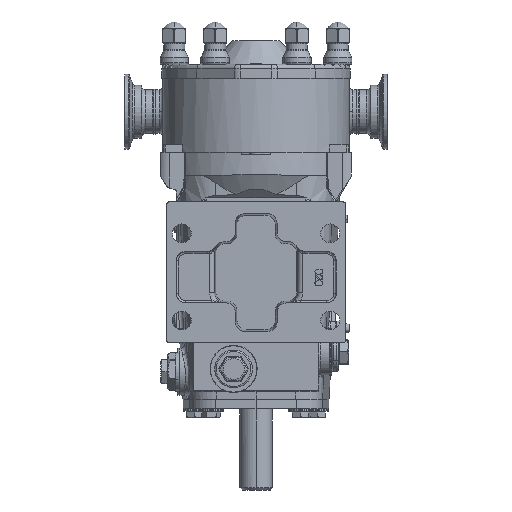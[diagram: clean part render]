
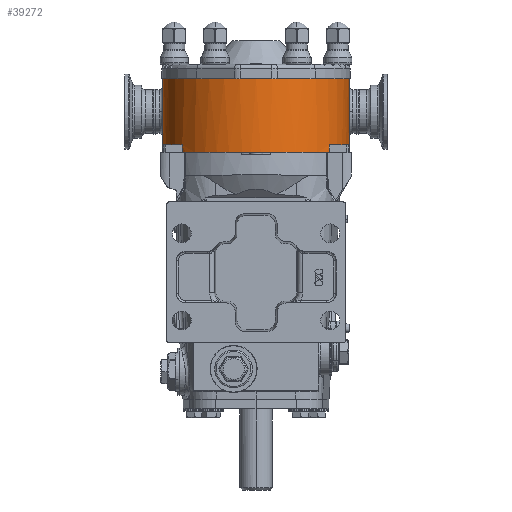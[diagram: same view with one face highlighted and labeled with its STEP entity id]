
A CAD part, front view. The second image highlights one B-rep face of the part: STEP entity #39272.
In plain terms, the highlighted cylindrical face has radius 62.992 mm (diameter 125.984 mm), a partial arc.
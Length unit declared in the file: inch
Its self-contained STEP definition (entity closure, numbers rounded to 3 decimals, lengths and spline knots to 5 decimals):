
#2674 = AXIS2_PLACEMENT_3D ( 'NONE', #50001, #16043, #55718 ) ;
#2813 = ORIENTED_EDGE ( 'NONE', *, *, #39237, .F. ) ;
#3952 = EDGE_CURVE ( 'NONE', #56547, #20359, #10922, .T. ) ;
#4075 = DIRECTION ( 'NONE',  ( 0., 0., 1. ) ) ;
#4383 = VERTEX_POINT ( 'NONE', #50678 ) ;
#4893 = CARTESIAN_POINT ( 'NONE',  ( -2.48, -2.563, 1.83 ) ) ;
#5679 = CARTESIAN_POINT ( 'NONE',  ( 2.48, -2.563, -0.125 ) ) ;
#6480 = CARTESIAN_POINT ( 'NONE',  ( -2.45837, -2.88985, -0.125 ) ) ;
#6926 = VERTEX_POINT ( 'NONE', #60268 ) ;
#7788 = DIRECTION ( 'NONE',  ( 0., 0., -1. ) ) ;
#8351 = DIRECTION ( 'NONE',  ( 0., 0., -1. ) ) ;
#9164 = ORIENTED_EDGE ( 'NONE', *, *, #40550, .T. ) ;
#9425 = CYLINDRICAL_SURFACE ( 'NONE', #68016, 2.48 ) ;
#9702 = CARTESIAN_POINT ( 'NONE',  ( 2.48, -2.563, 1.83 ) ) ;
#9827 = EDGE_CURVE ( 'NONE', #37275, #56595, #50944, .T. ) ;
#10329 = VECTOR ( 'NONE', #40900, 39.37008 ) ;
#10922 = CIRCLE ( 'NONE', #2674, 2.48 ) ;
#11826 = EDGE_CURVE ( 'NONE', #37275, #65487, #65839, .T. ) ;
#11852 = DIRECTION ( 'NONE',  ( 0., 0., 1. ) ) ;
#12422 = CARTESIAN_POINT ( 'NONE',  ( -1.95756, -4.08562, 1.83 ) ) ;
#12493 = ORIENTED_EDGE ( 'NONE', *, *, #38202, .T. ) ;
#12517 = AXIS2_PLACEMENT_3D ( 'NONE', #38024, #4075, #43745 ) ;
#13299 = DIRECTION ( 'NONE',  ( 0., 0., 1. ) ) ;
#13408 = DIRECTION ( 'NONE',  ( 0., 0., -1. ) ) ;
#13504 = DIRECTION ( 'NONE',  ( 0., 0., 1. ) ) ;
#13516 = CARTESIAN_POINT ( 'NONE',  ( 0., -2.563, -0.125 ) ) ;
#13906 = LINE ( 'NONE', #12422, #10329 ) ;
#14518 = EDGE_CURVE ( 'NONE', #4383, #6926, #22982, .T. ) ;
#14674 = VERTEX_POINT ( 'NONE', #5679 ) ;
#15720 = ORIENTED_EDGE ( 'NONE', *, *, #3952, .T. ) ;
#15933 = VERTEX_POINT ( 'NONE', #27512 ) ;
#16043 = DIRECTION ( 'NONE',  ( 0., 0., 1. ) ) ;
#17680 = DIRECTION ( 'NONE',  ( 0., 0., 1. ) ) ;
#19180 = DIRECTION ( 'NONE',  ( 1., 0., 0. ) ) ;
#19303 = ORIENTED_EDGE ( 'NONE', *, *, #9827, .F. ) ;
#20094 = CIRCLE ( 'NONE', #12517, 2.48 ) ;
#20359 = VERTEX_POINT ( 'NONE', #28696 ) ;
#21666 = VECTOR ( 'NONE', #7788, 39.37008 ) ;
#22534 = ORIENTED_EDGE ( 'NONE', *, *, #14518, .T. ) ;
#22744 = ORIENTED_EDGE ( 'NONE', *, *, #39677, .T. ) ;
#22794 = EDGE_CURVE ( 'NONE', #23148, #4383, #13906, .T. ) ;
#22982 = CIRCLE ( 'NONE', #36983, 2.48 ) ;
#23148 = VERTEX_POINT ( 'NONE', #67164 ) ;
#23343 = CIRCLE ( 'NONE', #51535, 2.48 ) ;
#24043 = CARTESIAN_POINT ( 'NONE',  ( -2.45837, -2.88985, 1.83 ) ) ;
#26180 = AXIS2_PLACEMENT_3D ( 'NONE', #47342, #13408, #53057 ) ;
#26242 = CARTESIAN_POINT ( 'NONE',  ( 2.45837, -2.88985, 0.075 ) ) ;
#26885 = AXIS2_PLACEMENT_3D ( 'NONE', #51633, #17680, #57365 ) ;
#26940 = DIRECTION ( 'NONE',  ( 0., 0., 1. ) ) ;
#27499 = VERTEX_POINT ( 'NONE', #72251 ) ;
#27512 = CARTESIAN_POINT ( 'NONE',  ( -0.375, -5.01448, -0.125 ) ) ;
#28040 = CIRCLE ( 'NONE', #26180, 2.48 ) ;
#28696 = CARTESIAN_POINT ( 'NONE',  ( 1.95069, -4.09441, -0.125 ) ) ;
#28766 = VECTOR ( 'NONE', #63755, 39.37008 ) ;
#29696 = VERTEX_POINT ( 'NONE', #6480 ) ;
#31546 = LINE ( 'NONE', #40080, #44833 ) ;
#32233 = EDGE_CURVE ( 'NONE', #56595, #14674, #66962, .T. ) ;
#32957 = CARTESIAN_POINT ( 'NONE',  ( 0., -2.563, -0.125 ) ) ;
#33587 = CARTESIAN_POINT ( 'NONE',  ( 0., -2.563, 0.075 ) ) ;
#34827 = VERTEX_POINT ( 'NONE', #26242 ) ;
#35484 = AXIS2_PLACEMENT_3D ( 'NONE', #60952, #26940, #66655 ) ;
#35615 = VECTOR ( 'NONE', #63917, 39.37008 ) ;
#35925 = AXIS2_PLACEMENT_3D ( 'NONE', #33587, #73324, #39279 ) ;
#36238 = EDGE_CURVE ( 'NONE', #34827, #59018, #38874, .T. ) ;
#36409 = CARTESIAN_POINT ( 'NONE',  ( 0., -2.563, 1.83 ) ) ;
#36592 = CARTESIAN_POINT ( 'NONE',  ( 2.45837, -2.88985, 1.83 ) ) ;
#36983 = AXIS2_PLACEMENT_3D ( 'NONE', #32957, #72691, #38645 ) ;
#37275 = VERTEX_POINT ( 'NONE', #4893 ) ;
#37342 = ORIENTED_EDGE ( 'NONE', *, *, #43594, .T. ) ;
#38024 = CARTESIAN_POINT ( 'NONE',  ( 0., -2.563, -0.125 ) ) ;
#38119 = VERTEX_POINT ( 'NONE', #63476 ) ;
#38202 = EDGE_CURVE ( 'NONE', #34827, #27499, #40544, .T. ) ;
#38645 = DIRECTION ( 'NONE',  ( 1., 0., 0. ) ) ;
#38874 = CIRCLE ( 'NONE', #35925, 2.48 ) ;
#39237 = EDGE_CURVE ( 'NONE', #23148, #38119, #28040, .T. ) ;
#39272 = ADVANCED_FACE ( 'NONE', ( #54664 ), #9425, .T. ) ;
#39279 = DIRECTION ( 'NONE',  ( 1., 0., 0. ) ) ;
#39677 = EDGE_CURVE ( 'NONE', #20359, #59018, #31546, .T. ) ;
#40080 = CARTESIAN_POINT ( 'NONE',  ( 1.95069, -4.09441, 1.83 ) ) ;
#40336 = EDGE_CURVE ( 'NONE', #15933, #49367, #73219, .T. ) ;
#40544 = LINE ( 'NONE', #36592, #67193 ) ;
#40550 = EDGE_CURVE ( 'NONE', #29696, #38119, #57178, .T. ) ;
#40900 = DIRECTION ( 'NONE',  ( 0., 0., -1. ) ) ;
#41749 = CARTESIAN_POINT ( 'NONE',  ( 2.48, -2.563, 1.83 ) ) ;
#42025 = EDGE_LOOP ( 'NONE', ( #2813, #68949, #22534, #37342, #42078, #49632, #15720, #22744, #55849, #12493, #70258, #59905, #19303, #49739, #42220, #9164 ) ) ;
#42078 = ORIENTED_EDGE ( 'NONE', *, *, #40336, .T. ) ;
#42220 = ORIENTED_EDGE ( 'NONE', *, *, #59648, .T. ) ;
#42406 = AXIS2_PLACEMENT_3D ( 'NONE', #47430, #13504, #53138 ) ;
#42573 = EDGE_CURVE ( 'NONE', #27499, #14674, #23343, .T. ) ;
#43594 = EDGE_CURVE ( 'NONE', #6926, #15933, #66683, .T. ) ;
#43745 = DIRECTION ( 'NONE',  ( 1., 0., 0. ) ) ;
#43931 = CARTESIAN_POINT ( 'NONE',  ( -2.48, -2.563, -0.125 ) ) ;
#44833 = VECTOR ( 'NONE', #11852, 39.37008 ) ;
#47224 = CARTESIAN_POINT ( 'NONE',  ( 0., -2.563, -0.125 ) ) ;
#47342 = CARTESIAN_POINT ( 'NONE',  ( 0., -2.563, 0.075 ) ) ;
#47430 = CARTESIAN_POINT ( 'NONE',  ( 0., -2.563, 1.83 ) ) ;
#47579 = DIRECTION ( 'NONE',  ( 0., 0., -1. ) ) ;
#48848 = CARTESIAN_POINT ( 'NONE',  ( 1.875, -4.1862, -0.125 ) ) ;
#49367 = VERTEX_POINT ( 'NONE', #71794 ) ;
#49632 = ORIENTED_EDGE ( 'NONE', *, *, #52351, .T. ) ;
#49739 = ORIENTED_EDGE ( 'NONE', *, *, #11826, .T. ) ;
#50001 = CARTESIAN_POINT ( 'NONE',  ( 0., -2.563, -0.125 ) ) ;
#50678 = CARTESIAN_POINT ( 'NONE',  ( -1.95756, -4.08562, -0.125 ) ) ;
#50902 = AXIS2_PLACEMENT_3D ( 'NONE', #13516, #53141, #19180 ) ;
#50944 = CIRCLE ( 'NONE', #42406, 2.48 ) ;
#51535 = AXIS2_PLACEMENT_3D ( 'NONE', #47224, #13299, #52935 ) ;
#51633 = CARTESIAN_POINT ( 'NONE',  ( 0., -2.563, -0.125 ) ) ;
#52351 = EDGE_CURVE ( 'NONE', #49367, #56547, #53231, .T. ) ;
#52935 = DIRECTION ( 'NONE',  ( 1., 0., 0. ) ) ;
#53057 = DIRECTION ( 'NONE',  ( -1., 0., 0. ) ) ;
#53138 = DIRECTION ( 'NONE',  ( 1., 0., 0. ) ) ;
#53141 = DIRECTION ( 'NONE',  ( 0., 0., 1. ) ) ;
#53231 = CIRCLE ( 'NONE', #35484, 2.48 ) ;
#54664 = FACE_OUTER_BOUND ( 'NONE', #42025, .T. ) ;
#55718 = DIRECTION ( 'NONE',  ( 1., 0., 0. ) ) ;
#55849 = ORIENTED_EDGE ( 'NONE', *, *, #36238, .F. ) ;
#56547 = VERTEX_POINT ( 'NONE', #48848 ) ;
#56595 = VERTEX_POINT ( 'NONE', #9702 ) ;
#57178 = LINE ( 'NONE', #24043, #28766 ) ;
#57365 = DIRECTION ( 'NONE',  ( 1., 0., 0. ) ) ;
#59018 = VERTEX_POINT ( 'NONE', #67059 ) ;
#59648 = EDGE_CURVE ( 'NONE', #65487, #29696, #20094, .T. ) ;
#59905 = ORIENTED_EDGE ( 'NONE', *, *, #32233, .F. ) ;
#60268 = CARTESIAN_POINT ( 'NONE',  ( -1.875, -4.1862, -0.125 ) ) ;
#60952 = CARTESIAN_POINT ( 'NONE',  ( 0., -2.563, -0.125 ) ) ;
#63476 = CARTESIAN_POINT ( 'NONE',  ( -2.45837, -2.88985, 0.075 ) ) ;
#63755 = DIRECTION ( 'NONE',  ( 0., 0., 1. ) ) ;
#63917 = DIRECTION ( 'NONE',  ( 0., 0., -1. ) ) ;
#65487 = VERTEX_POINT ( 'NONE', #43931 ) ;
#65839 = LINE ( 'NONE', #69577, #35615 ) ;
#66655 = DIRECTION ( 'NONE',  ( 1., 0., 0. ) ) ;
#66683 = CIRCLE ( 'NONE', #26885, 2.48 ) ;
#66962 = LINE ( 'NONE', #41749, #21666 ) ;
#67059 = CARTESIAN_POINT ( 'NONE',  ( 1.95069, -4.09441, 0.075 ) ) ;
#67164 = CARTESIAN_POINT ( 'NONE',  ( -1.95756, -4.08562, 0.075 ) ) ;
#67193 = VECTOR ( 'NONE', #8351, 39.37008 ) ;
#68016 = AXIS2_PLACEMENT_3D ( 'NONE', #36409, #47579, #70460 ) ;
#68949 = ORIENTED_EDGE ( 'NONE', *, *, #22794, .T. ) ;
#69577 = CARTESIAN_POINT ( 'NONE',  ( -2.48, -2.563, 1.83 ) ) ;
#70258 = ORIENTED_EDGE ( 'NONE', *, *, #42573, .T. ) ;
#70460 = DIRECTION ( 'NONE',  ( -1., 0., 0. ) ) ;
#71794 = CARTESIAN_POINT ( 'NONE',  ( 0.375, -5.01448, -0.125 ) ) ;
#72251 = CARTESIAN_POINT ( 'NONE',  ( 2.45837, -2.88985, -0.125 ) ) ;
#72691 = DIRECTION ( 'NONE',  ( 0., 0., 1. ) ) ;
#73219 = CIRCLE ( 'NONE', #50902, 2.48 ) ;
#73324 = DIRECTION ( 'NONE',  ( 0., 0., -1. ) ) ;
